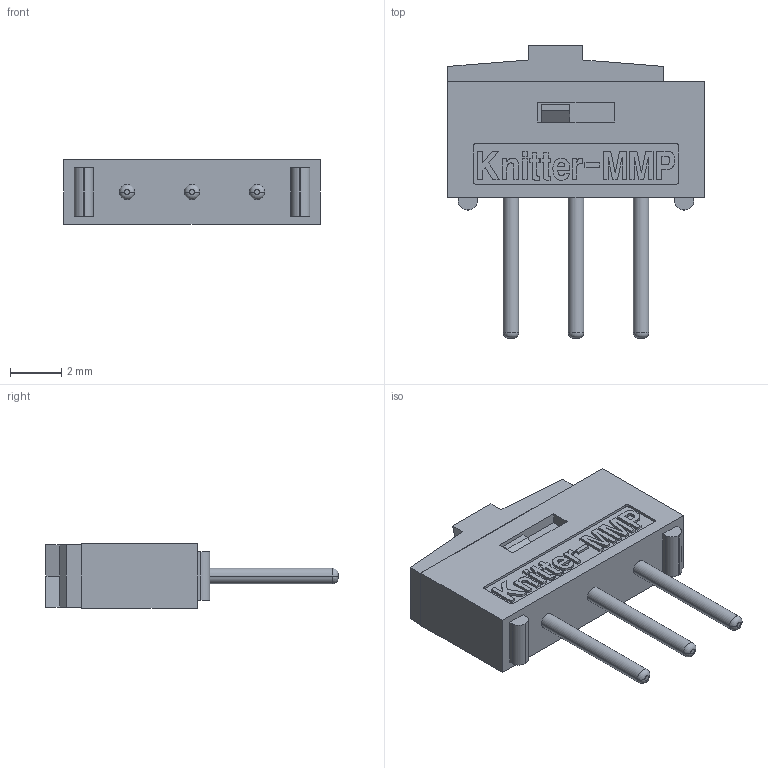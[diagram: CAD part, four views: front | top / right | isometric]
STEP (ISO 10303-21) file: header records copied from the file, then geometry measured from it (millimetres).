
FILE_DESCRIPTION (( 'STEP AP203' ), '1' );
FILE_NAME ('BSI10-D (KNITTER).STEP', '2016-12-20T05:56:20', ( '' ), ( '' ), 'SwSTEP 2.0', 'SolidWorks 2016', '' );
FILE_SCHEMA (( 'CONFIG_CONTROL_DESIGN' ));
Length unit declared in the file: millimetre
Products named in the file (1): BSI10-D (KNITTER)
Bounding box: 10 x 11.4 x 2.5 mm (x, y, z)
Volume: 118 mm3; surface area: 350.6 mm2
Topology: 2 solids, 2 shells, 374 faces, 1005 edges, 661 vertices
Faces by surface type: plane 279, bspline 45, cylinder 37, cone 7, torus 6
Entity records: 12929 total; most frequent: CARTESIAN_POINT 3722, ORIENTED_EDGE 2010, DIRECTION 1658, EDGE_CURVE 1005, VECTOR 808, LINE 808, VERTEX_POINT 661, AXIS2_PLACEMENT_3D 425
